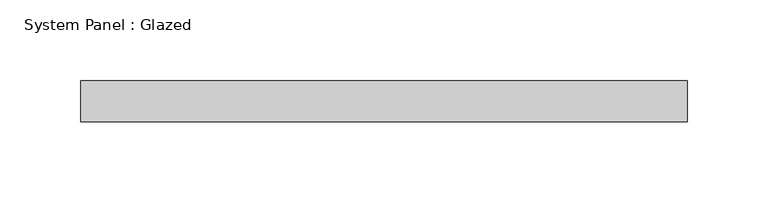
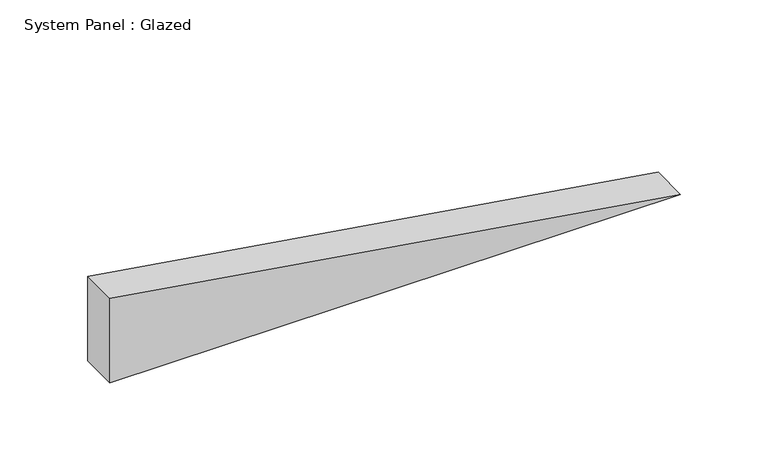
"""IFC4 building model written with IfcOpenShell, lengths in millimetres: plate geometry, System Panel : Glazed."""

from ifc_helpers import new_model, si_unit, frame, origin, place, context, project, spatial, polyline, outline, extrude, source, transform, mapped, element, save


def system_panel_glazed_e8c26a90(model_context):
    return source(origin(), model_context, "Body", "SweptSolid", [
        extrude(outline(polyline([(0.0, -187.8037802), (0.0, 187.8037802), (59.0170444, -187.8037802), (0.0, -187.8037802)])), frame((0.0, 19.05, 0.0), z_axis=(0.0, 1.0, 0.0), x_axis=(0.0, 0.0, 1.0)), (0.0, 0.0, 1.0), 25.4),
    ])


if __name__ == "__main__":
    model = new_model("IFC4")
    model_context = context("Model", 3, world=origin())
    ifc_project = project(units=[si_unit("LENGTHUNIT", "METRE", prefix="MILLI")], contexts=[model_context])
    site = spatial("IfcSite", under=ifc_project)
    building = spatial("IfcBuilding", under=site)
    placement = place(None, origin())
    system_panel_glazed_shape = system_panel_glazed_e8c26a90(model_context)
    element("IfcPlate", 1, ObjectType="System Panel : Glazed", at=placement, inside=building, context=model_context, shape_type="MappedRepresentation", body=[
        mapped(system_panel_glazed_shape, transform((0.0, 0.0, 0.0), x_axis=(1.0, 0.0, 0.0), y_axis=(0.0, 1.0, 0.0), z_axis=(0.0, 0.0, 1.0))),
    ])
    save(model, "model.ifc")
